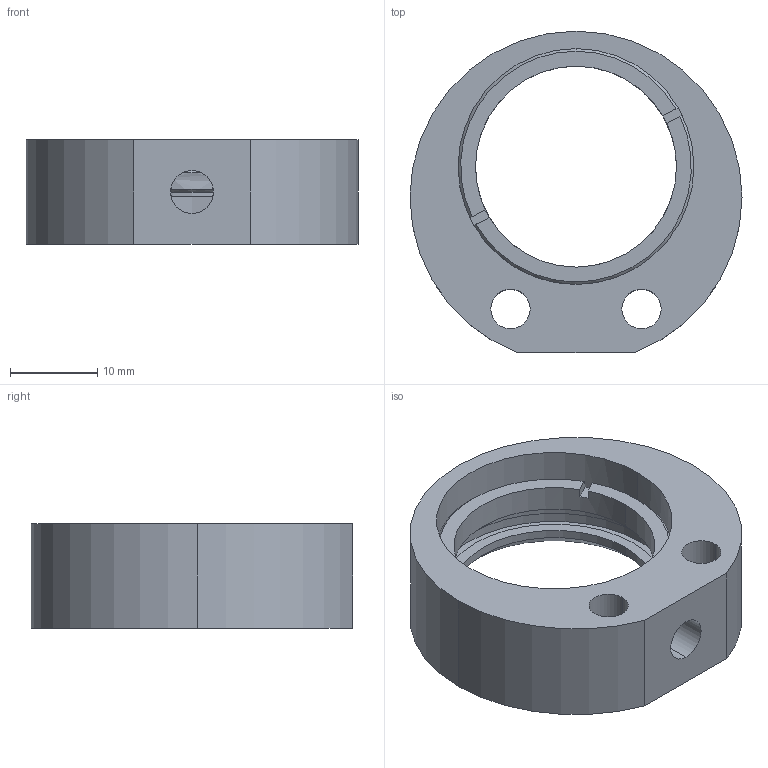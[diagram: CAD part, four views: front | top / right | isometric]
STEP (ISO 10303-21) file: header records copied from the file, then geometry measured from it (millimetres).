
FILE_DESCRIPTION (( 'STEP AP203' ), '1' );
FILE_NAME ('4OCM-25.STEP', '2008-05-16T08:28:30', ( 'STANDA' ), ( '' ), 'SwSTEP 2.0', 'SolidWorks 2003240', '' );
FILE_SCHEMA (( 'CONFIG_CONTROL_DESIGN' ));
Length unit declared in the file: millimetre
Products named in the file (1): 4OCM-25
Bounding box: 38 x 36.8 x 12 mm (x, y, z)
Volume: 6720.4 mm3; surface area: 4757.4 mm2
Topology: 1 solids, 1 shells, 49 faces, 129 edges, 84 vertices
Faces by surface type: cylinder 24, plane 16, cone 9
Entity records: 1686 total; most frequent: CARTESIAN_POINT 337, DIRECTION 283, ORIENTED_EDGE 258, EDGE_CURVE 129, AXIS2_PLACEMENT_3D 118, VERTEX_POINT 84, CIRCLE 68, EDGE_LOOP 61
